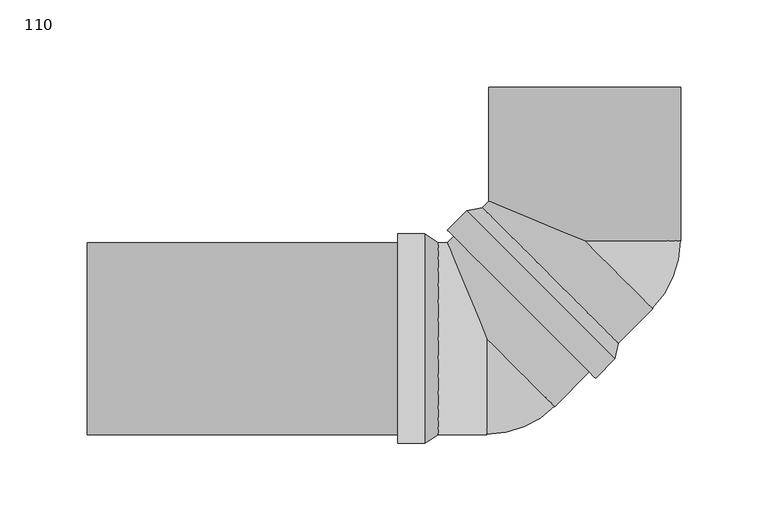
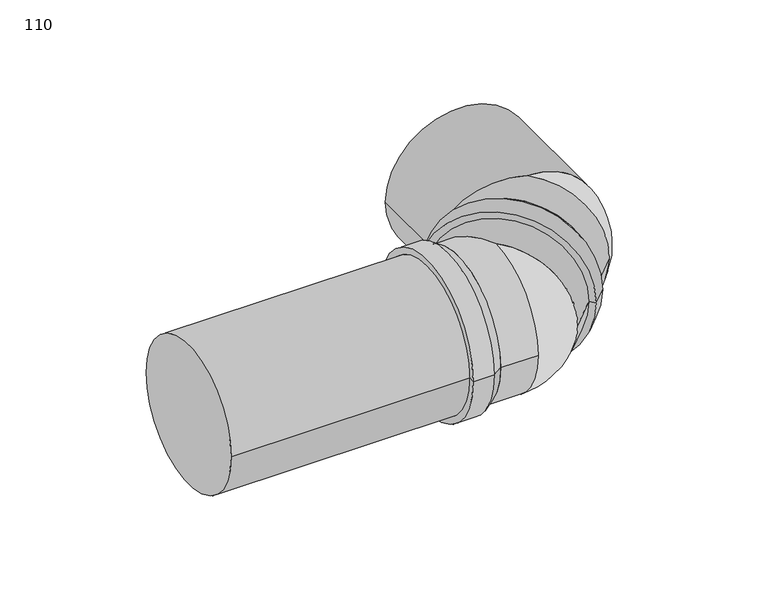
"""IFC4 building model written with IfcOpenShell, lengths in millimetres: pipe fitting geometry, AliaxisFR_Friaphon_ShortCushioningSection_FR : 110."""

from ifc_helpers import new_model, si_unit, point, frame, origin, origin_2d, place, context, project, spatial, polyline, circle_curve, ellipse_curve, trimmed, segment, composite_curve, outline, extrude, source, transform, mapped, element, save
from ifc_brep_helpers import plane_surface, cylinder_surface, revolved_surface, advanced_brep


def pipe_fitting_110_d714abcb(model_context):
    return source(origin(), model_context, "Body", "SolidModel", [
        extrude(outline(composite_curve([segment(trimmed(circle_curve(origin_2d(), 55.0), [point((-55.0, 0.0))], [point((55.0, 0.0))], False, "CARTESIAN"), True, "CONTINUOUS"), segment(trimmed(circle_curve(origin_2d(), 55.0), [point((55.0, 0.0))], [point((-55.0, 0.0))], False, "CARTESIAN"), True, "CONTINUOUS")], self_intersect=False)), frame((-285.0, 0.0, 0.0), z_axis=(1.0, 0.0, 0.0), x_axis=(0.0, 1.0, 0.0)), (0.0, 0.0, 1.0), 177.825902),
        advanced_brep(
        [(-107.174098, -60.0, 0.0), (-107.174098, -55.0, 0.0), (-107.174098, 55.0, 0.0), (-107.174098, 60.0, 0.0), (-91.574098, -60.0, 0.0), (-91.574098, 60.0, 0.0), (-83.974098, -55.0, 0.0), (-83.974098, 55.0, 0.0)],
        [
            (0, 1),
            (1, 2, circle_curve(frame((-107.174098, 0.0, 0.0), z_axis=(1.0, 0.0, 0.0), x_axis=(0.0, 1.0, 0.0)), 55.0)),
            (2, 3),
            (3, 0, circle_curve(frame((-107.174098, 0.0, 0.0), z_axis=(-1.0, 0.0, 0.0), x_axis=(0.0, 1.0, 0.0)), 60.0)),
            (2, 1, circle_curve(frame((-107.174098, 0.0, 0.0), z_axis=(1.0, 0.0, 0.0), x_axis=(0.0, 1.0, 0.0)), 55.0)),
            (0, 3, circle_curve(frame((-107.174098, 0.0, 0.0), z_axis=(-1.0, 0.0, 0.0), x_axis=(0.0, 1.0, 0.0)), 60.0)),
            (4, 0),
            (3, 5),
            (5, 4, circle_curve(frame((-91.574098, 0.0, 0.0), z_axis=(-1.0, 0.0, 0.0), x_axis=(0.0, 1.0, 0.0)), 60.0)),
            (4, 5, circle_curve(frame((-91.574098, 0.0, 0.0), z_axis=(-1.0, 0.0, 0.0), x_axis=(0.0, 1.0, 0.0)), 60.0)),
            (1, 6),
            (6, 7, circle_curve(frame((-83.974098, 0.0, 0.0), z_axis=(1.0, 0.0, 0.0), x_axis=(0.0, 1.0, 0.0)), 55.0)),
            (7, 2),
            (7, 6, circle_curve(frame((-83.974098, 0.0, 0.0), z_axis=(1.0, 0.0, 0.0), x_axis=(0.0, 1.0, 0.0)), 55.0)),
            (6, 4),
            (5, 7),
        ],
        [
            plane_surface(frame((-107.174098, 0.0, 0.0), z_axis=(-1.0, 0.0, 0.0), x_axis=(0.0, 1.0, 0.0))),
            cylinder_surface(frame((-83.974098, 0.0, 0.0), z_axis=(1.0, 0.0, 0.0), x_axis=(0.0, 1.0, 0.0)), 60.0),
            revolved_surface(polyline([(-83.974098, 55.0, 0.0), (-107.174098, 55.0, 0.0)]), (-83.974098, 0.0, 0.0), (1.0, 0.0, 0.0)),
            revolved_surface(polyline([(-91.574098, 60.0, 0.0), (-83.974098, 55.0, 0.0)]), (-83.974098, 0.0, 0.0), (1.0, 0.0, 0.0)),
        ],
        [
            (0, [[1, 2, 3, 4]]),
            (0, [[-3, 5, -1, 6]]),
            (1, [[7, -4, 8, 9]]),
            (1, [[-8, -6, -7, 10]]),
            (2, [[11, 12, 13, -2]]),
            (2, [[-13, 14, -11, -5]]),
            (3, [[15, -9, 16, -12]]),
            (3, [[-16, -10, -15, -14]]),
        ],
    ),
        advanced_brep(
        [(-84.0, 55.0, 0.0), (-84.0, -55.0, 0.0), (-56.0, -55.0, 0.0), (-56.0, 0.0, 55.0), (-78.7817459, 55.0, 0.0), (-56.0, 0.0, -55.0), (2.6898628, -19.0918831, 0.0), (-75.0918831, 58.6898628, 0.0), (-17.109127, -38.890873, 0.0)],
        [
            (0, 1, circle_curve(frame((-84.0, 0.0, 0.0), z_axis=(-1.0, 0.0, 0.0), x_axis=(0.0, 1.0, 0.0)), 55.0)),
            (1, 0, circle_curve(frame((-84.0, 0.0, 0.0), z_axis=(-1.0, 0.0, 0.0), x_axis=(0.0, 1.0, 0.0)), 55.0)),
            (2, 3, circle_curve(frame((-56.0, 0.0, 0.0), z_axis=(-1.0, 0.0, 0.0), x_axis=(0.0, 1.0, 0.0)), 55.0)),
            (3, 4, ellipse_curve(frame((-56.0, 0.0, 0.0), z_axis=(-0.9238795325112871, -0.38268343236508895, 0.0), x_axis=(0.38268343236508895, -0.9238795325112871, 0.0)), 59.531571, 55.0)),
            (4, 0),
            (1, 2),
            (4, 5, ellipse_curve(frame((-56.0, 0.0, 0.0), z_axis=(-0.9238795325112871, -0.38268343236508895, 0.0), x_axis=(0.38268343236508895, -0.9238795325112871, 0.0)), 59.531571, 55.0)),
            (5, 2, circle_curve(frame((-56.0, 0.0, 0.0), z_axis=(-1.0, 0.0, 0.0), x_axis=(0.0, 1.0, 0.0)), 55.0)),
            (6, 7, circle_curve(frame((-36.2010101, 19.7989899, 0.0), z_axis=(0.7071067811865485, 0.7071067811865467, 0.0), x_axis=(-0.7071067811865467, 0.7071067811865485, 0.0)), 55.0)),
            (7, 6, circle_curve(frame((-36.2010101, 19.7989899, 0.0), z_axis=(0.7071067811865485, 0.7071067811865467, 0.0), x_axis=(-0.7071067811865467, 0.7071067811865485, 0.0)), 55.0)),
            (7, 4),
            (3, 8, circle_curve(frame((-56.0, 0.0, 0.0), z_axis=(0.7071067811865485, 0.7071067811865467, 0.0), x_axis=(-0.7071067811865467, 0.7071067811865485, 0.0)), 55.0)),
            (8, 6),
            (8, 5, circle_curve(frame((-56.0, 0.0, 0.0), z_axis=(0.7071067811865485, 0.7071067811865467, 0.0), x_axis=(-0.7071067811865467, 0.7071067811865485, 0.0)), 55.0)),
        ],
        [
            plane_surface(frame((-84.0, 0.0, 0.0), z_axis=(-1.0, 0.0, 0.0), x_axis=(0.0, 0.0, 1.0))),
            cylinder_surface(frame((-56.0, 0.0, 0.0), z_axis=(1.0, 0.0, 0.0), x_axis=(0.0, 1.0, 0.0)), 55.0),
            plane_surface(frame((-36.2010101, 19.7989899, 0.0), z_axis=(0.7071067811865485, 0.7071067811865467, 0.0), x_axis=(0.0, 0.0, 1.0))),
            cylinder_surface(frame((-36.2010101, 19.7989899, 0.0), z_axis=(0.7071067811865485, 0.7071067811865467, 0.0), x_axis=(-0.7071067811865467, 0.7071067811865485, 0.0)), 55.0),
            revolved_surface(trimmed(ellipse_curve(frame((-56.0, 0.0, 0.0), z_axis=(1.0000000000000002, 0.0, 0.0), x_axis=(0.0, 1.0000000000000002, 0.0)), 55.0, 55.0), [point((-56.0, 0.0, 55.0))], [point((-56.0, 0.0, -55.0))], True, "CARTESIAN"), (-56.0, 0.0, 55.0), (0.0, 0.0, -1.0)),
        ],
        [
            (0, [[1, 2]]),
            (1, [[3, 4, 5, -2, 6]]),
            (1, [[-1, -5, 7, 8, -6]]),
            (2, [[9, 10]]),
            (3, [[11, -4, 12, 13, -10]]),
            (3, [[-13, 14, -7, -11, -9]]),
            (4, [[-3, -8, -14, -12]]),
        ],
    ),
        advanced_brep(
        [(6.2253967, -22.627417, 0.0), (2.6898628, -19.0918831, 0.0), (-75.0918831, 58.6898628, 0.0), (-78.627417, 62.2253967, 0.0), (17.2562625, -11.5965512, 0.0), (-67.5965512, 73.2562625, 0.0), (19.0918831, -2.6898628, 0.0), (-58.6898628, 75.0918831, 0.0)],
        [
            (0, 1),
            (1, 2, circle_curve(frame((-36.2010101, 19.7989899, 0.0), z_axis=(0.707106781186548, 0.7071067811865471, 0.0), x_axis=(-0.7071067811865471, 0.707106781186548, 0.0)), 55.0)),
            (2, 3),
            (3, 0, circle_curve(frame((-36.2010101, 19.7989899, 0.0), z_axis=(-0.707106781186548, -0.7071067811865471, 0.0), x_axis=(-0.7071067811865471, 0.707106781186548, 0.0)), 60.0)),
            (2, 1, circle_curve(frame((-36.2010101, 19.7989899, 0.0), z_axis=(0.707106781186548, 0.7071067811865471, 0.0), x_axis=(-0.7071067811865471, 0.707106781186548, 0.0)), 55.0)),
            (0, 3, circle_curve(frame((-36.2010101, 19.7989899, 0.0), z_axis=(-0.707106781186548, -0.7071067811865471, 0.0), x_axis=(-0.7071067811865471, 0.707106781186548, 0.0)), 60.0)),
            (4, 0),
            (3, 5),
            (5, 4, circle_curve(frame((-25.1701443, 30.8298557, 0.0), z_axis=(-0.707106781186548, -0.7071067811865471, 0.0), x_axis=(-0.7071067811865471, 0.707106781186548, 0.0)), 60.0)),
            (4, 5, circle_curve(frame((-25.1701443, 30.8298557, 0.0), z_axis=(-0.707106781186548, -0.7071067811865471, 0.0), x_axis=(-0.7071067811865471, 0.707106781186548, 0.0)), 60.0)),
            (1, 6),
            (6, 7, circle_curve(frame((-19.7989899, 36.2010101, 0.0), z_axis=(0.707106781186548, 0.7071067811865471, 0.0), x_axis=(-0.7071067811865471, 0.707106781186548, 0.0)), 55.0)),
            (7, 2),
            (7, 6, circle_curve(frame((-19.7989899, 36.2010101, 0.0), z_axis=(0.707106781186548, 0.7071067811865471, 0.0), x_axis=(-0.7071067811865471, 0.707106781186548, 0.0)), 55.0)),
            (6, 4),
            (5, 7),
        ],
        [
            plane_surface(frame((-36.2010101, 19.7989899, 0.0), z_axis=(-0.707106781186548, -0.7071067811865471, 0.0), x_axis=(-0.7071067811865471, 0.707106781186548, 0.0))),
            cylinder_surface(frame((-19.7989899, 36.2010101, 0.0), z_axis=(0.707106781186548, 0.7071067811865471, 0.0), x_axis=(-0.7071067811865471, 0.707106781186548, 0.0)), 60.0),
            revolved_surface(polyline([(-58.68986281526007, 75.09188311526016, 0.0), (-75.09188311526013, 58.68986281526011, 0.0)]), (-19.7989899, 36.2010101, 0.0), (0.707106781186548, 0.7071067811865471, 0.0)),
            revolved_surface(polyline([(-67.5965512, 73.2562625, 0.0), (-58.6898628, 75.0918831, 0.0)]), (-19.7989899, 36.2010101, 0.0), (0.707106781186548, 0.7071067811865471, 0.0)),
        ],
        [
            (0, [[1, 2, 3, 4]]),
            (0, [[-3, 5, -1, 6]]),
            (1, [[7, -4, 8, 9]]),
            (1, [[-8, -6, -7, 10]]),
            (2, [[11, 12, 13, -2]]),
            (2, [[-13, 14, -11, -5]]),
            (3, [[15, -9, 16, -12]]),
            (3, [[-16, -10, -15, -14]]),
        ],
    ),
        advanced_brep(
        [(-58.6898628, 75.0918831, 0.0), (19.0918831, -2.6898628, 0.0), (38.890873, 17.109127, 0.0), (0.0, 56.0, 55.0), (-55.0, 78.7817459, 0.0), (0.0, 56.0, -55.0), (55.0, 144.0, 0.0), (-55.0, 144.0, 0.0), (55.0, 56.0, 0.0)],
        [
            (0, 1, circle_curve(frame((-19.7989899, 36.2010101, 0.0), z_axis=(-0.7071067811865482, -0.7071067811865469, 0.0), x_axis=(-0.7071067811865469, 0.7071067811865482, 0.0)), 55.0)),
            (1, 0, circle_curve(frame((-19.7989899, 36.2010101, 0.0), z_axis=(-0.7071067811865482, -0.7071067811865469, 0.0), x_axis=(-0.7071067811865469, 0.7071067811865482, 0.0)), 55.0)),
            (2, 3, circle_curve(frame((0.0, 56.0, 0.0), z_axis=(-0.7071067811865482, -0.7071067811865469, 0.0), x_axis=(-0.7071067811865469, 0.7071067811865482, 0.0)), 55.0)),
            (3, 4, ellipse_curve(frame((0.0, 56.0, 0.0), z_axis=(-0.38268343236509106, -0.9238795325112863, 0.0), x_axis=(0.9238795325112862, -0.3826834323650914, 0.0)), 59.531571, 55.0)),
            (4, 0),
            (1, 2),
            (4, 5, ellipse_curve(frame((0.0, 56.0, 0.0), z_axis=(-0.38268343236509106, -0.9238795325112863, 0.0), x_axis=(0.9238795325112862, -0.3826834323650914, 0.0)), 59.531571, 55.0)),
            (5, 2, circle_curve(frame((0.0, 56.0, 0.0), z_axis=(-0.7071067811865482, -0.7071067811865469, 0.0), x_axis=(-0.7071067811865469, 0.7071067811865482, 0.0)), 55.0)),
            (6, 7, circle_curve(frame((0.0, 144.0, 0.0), z_axis=(0.0, 1.0, 0.0), x_axis=(-1.0, 0.0, 0.0)), 55.0)),
            (7, 6, circle_curve(frame((0.0, 144.0, 0.0), z_axis=(0.0, 1.0, 0.0), x_axis=(-1.0, 0.0, 0.0)), 55.0)),
            (7, 4),
            (3, 8, circle_curve(frame((0.0, 56.0, 0.0), z_axis=(0.0, 1.0, 0.0), x_axis=(-1.0, 0.0, 0.0)), 55.0)),
            (8, 6),
            (8, 5, circle_curve(frame((0.0, 56.0, 0.0), z_axis=(0.0, 1.0, 0.0), x_axis=(-1.0, 0.0, 0.0)), 55.0)),
        ],
        [
            plane_surface(frame((-19.7989899, 36.2010101, 0.0), z_axis=(-0.7071067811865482, -0.7071067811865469, 0.0), x_axis=(0.0, 0.0, 1.0))),
            cylinder_surface(frame((0.0, 56.0, 0.0), z_axis=(0.7071067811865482, 0.7071067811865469, 0.0), x_axis=(-0.7071067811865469, 0.7071067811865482, 0.0)), 55.0),
            plane_surface(frame((0.0, 144.0, 0.0), z_axis=(0.0, 1.0, 0.0), x_axis=(0.0, 0.0, 1.0))),
            cylinder_surface(frame((0.0, 144.0, 0.0), z_axis=(0.0, 1.0, 0.0), x_axis=(-1.0, 0.0, 0.0)), 55.0),
            revolved_surface(trimmed(ellipse_curve(frame((0.0, 56.0, 0.0), z_axis=(0.7071067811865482, 0.707106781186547, 0.0), x_axis=(-0.707106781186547, 0.7071067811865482, 0.0)), 55.0, 55.0), [point((0.0, 56.0, 55.0))], [point((0.0, 56.0, -55.0))], True, "CARTESIAN"), (0.0, 56.0, 55.0), (0.0, 0.0, -1.0)),
        ],
        [
            (0, [[1, 2]]),
            (1, [[3, 4, 5, -2, 6]]),
            (1, [[-5, 7, 8, -6, -1]]),
            (2, [[9, 10]]),
            (3, [[11, -4, 12, 13, -10]]),
            (3, [[-13, 14, -7, -11, -9]]),
            (4, [[-3, -8, -14, -12]]),
        ],
    ),
    ])


if __name__ == "__main__":
    model = new_model("IFC4")
    model_context = context("Model", 3, world=origin())
    ifc_project = project(units=[si_unit("LENGTHUNIT", "METRE", prefix="MILLI")], contexts=[model_context])
    site = spatial("IfcSite", under=ifc_project)
    building = spatial("IfcBuilding", under=site)
    placement = place(None, origin())
    pipe_fitting_110_shape = pipe_fitting_110_d714abcb(model_context)
    element("IfcPipeFitting", 1, ObjectType="AliaxisFR_Friaphon_ShortCushioningSection_FR : 110", at=placement, inside=building, context=model_context, shape_type="MappedRepresentation", body=[
        mapped(pipe_fitting_110_shape, transform((0.0, 0.0, 0.0), x_axis=(1.0, 0.0, 0.0), y_axis=(0.0, 1.0, 0.0), z_axis=(0.0, 0.0, 1.0))),
    ])
    save(model, "model.ifc")
